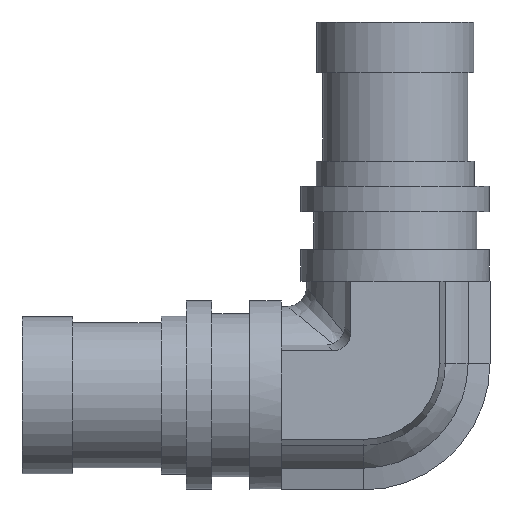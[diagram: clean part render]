
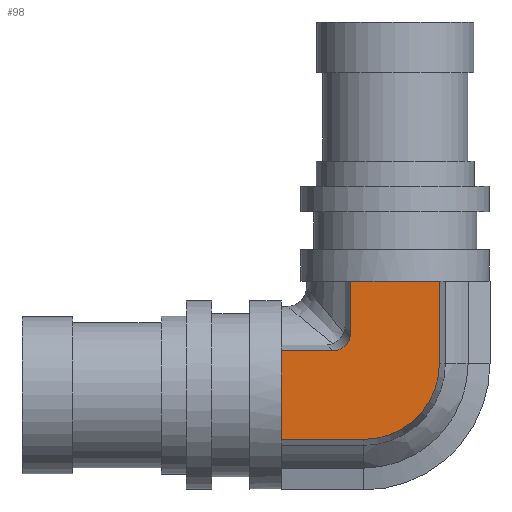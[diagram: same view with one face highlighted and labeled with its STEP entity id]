
A CAD part, front view. The second image highlights one B-rep face of the part: STEP entity #98.
In plain terms, the highlighted planar face has unit normal (0, -1, 0).
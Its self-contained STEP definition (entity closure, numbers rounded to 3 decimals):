
#98 = ADVANCED_FACE( '', ( #199 ), #200, .T. );
#199 = FACE_OUTER_BOUND( '', #605, .T. );
#200 = PLANE( '', #606 );
#605 = EDGE_LOOP( '', ( #967, #968, #969, #970, #971, #972, #973, #974 ) );
#606 = AXIS2_PLACEMENT_3D( '', #975, #976, #977 );
#967 = ORIENTED_EDGE( '', *, *, #1302, .F. );
#968 = ORIENTED_EDGE( '', *, *, #1356, .T. );
#969 = ORIENTED_EDGE( '', *, *, #1357, .F. );
#970 = ORIENTED_EDGE( '', *, *, #1358, .F. );
#971 = ORIENTED_EDGE( '', *, *, #1324, .T. );
#972 = ORIENTED_EDGE( '', *, *, #1359, .T. );
#973 = ORIENTED_EDGE( '', *, *, #1319, .T. );
#974 = ORIENTED_EDGE( '', *, *, #1298, .F. );
#975 = CARTESIAN_POINT( '', ( -3.5, -7.5, 2.5 ) );
#976 = DIRECTION( '', ( 0., -1., 0. ) );
#977 = DIRECTION( '', ( 0., 0., -1. ) );
#1298 = EDGE_CURVE( '', #1449, #1445, #1451, .T. );
#1302 = EDGE_CURVE( '', #1457, #1449, #1458, .T. );
#1319 = EDGE_CURVE( '', #1488, #1445, #1489, .T. );
#1324 = EDGE_CURVE( '', #1496, #1494, #1497, .F. );
#1356 = EDGE_CURVE( '', #1457, #1546, #1547, .T. );
#1357 = EDGE_CURVE( '', #1548, #1546, #1549, .T. );
#1358 = EDGE_CURVE( '', #1496, #1548, #1550, .T. );
#1359 = EDGE_CURVE( '', #1494, #1488, #1551, .T. );
#1445 = VERTEX_POINT( '', #1682 );
#1449 = VERTEX_POINT( '', #1688 );
#1451 = LINE( '', #1691, #1692 );
#1457 = VERTEX_POINT( '', #1698 );
#1458 = CIRCLE( '', #1699, 6. );
#1488 = VERTEX_POINT( '', #1760 );
#1489 = LINE( '', #1761, #1762 );
#1494 = VERTEX_POINT( '', #1782 );
#1496 = VERTEX_POINT( '', #1785 );
#1497 = ELLIPSE( '', #1786, 1.604, 1.5 );
#1546 = VERTEX_POINT( '', #1858 );
#1547 = LINE( '', #1859, #1860 );
#1548 = VERTEX_POINT( '', #1861 );
#1549 = LINE( '', #1862, #1863 );
#1550 = LINE( '', #1864, #1865 );
#1551 = LINE( '', #1866, #1867 );
#1682 = CARTESIAN_POINT( '', ( -9., -7.5, -3.5 ) );
#1688 = CARTESIAN_POINT( '', ( -2.5, -7.5, -3.5 ) );
#1691 = CARTESIAN_POINT( '', ( -2.5, -7.5, -3.5 ) );
#1692 = VECTOR( '', #2025, 1000. );
#1698 = CARTESIAN_POINT( '', ( 3.5, -7.5, 2.5 ) );
#1699 = AXIS2_PLACEMENT_3D( '', #2035, #2036, #2037 );
#1760 = CARTESIAN_POINT( '', ( -9., -7.5, 3.5 ) );
#1761 = CARTESIAN_POINT( '', ( -9., -7.5, 3.5 ) );
#1762 = VECTOR( '', #2058, 1000. );
#1782 = CARTESIAN_POINT( '', ( -4.949, -7.5, 3.5 ) );
#1785 = CARTESIAN_POINT( '', ( -3.5, -7.5, 4.949 ) );
#1786 = AXIS2_PLACEMENT_3D( '', #2064, #2065, #2066 );
#1858 = CARTESIAN_POINT( '', ( 3.5, -7.5, 9. ) );
#1859 = CARTESIAN_POINT( '', ( 3.5, -7.5, 2.5 ) );
#1860 = VECTOR( '', #2117, 1000. );
#1861 = CARTESIAN_POINT( '', ( -3.5, -7.5, 9. ) );
#1862 = CARTESIAN_POINT( '', ( -3.5, -7.5, 9. ) );
#1863 = VECTOR( '', #2118, 1000. );
#1864 = CARTESIAN_POINT( '', ( -3.5, -7.5, 2.5 ) );
#1865 = VECTOR( '', #2119, 1000. );
#1866 = CARTESIAN_POINT( '', ( -2.5, -7.5, 3.5 ) );
#1867 = VECTOR( '', #2120, 1000. );
#2025 = DIRECTION( '', ( -1., 0., 0. ) );
#2035 = CARTESIAN_POINT( '', ( -2.5, -7.5, 2.5 ) );
#2036 = DIRECTION( '', ( 0., 1., 0. ) );
#2037 = DIRECTION( '', ( 0., 0., 1. ) );
#2058 = DIRECTION( '', ( 0., 0., -1. ) );
#2064 = CARTESIAN_POINT( '', ( -5.053, -7.5, 5.053 ) );
#2065 = DIRECTION( '', ( 0., -1., 0. ) );
#2066 = DIRECTION( '', ( 0.707, 0., -0.707 ) );
#2117 = DIRECTION( '', ( 0., 0., 1. ) );
#2118 = DIRECTION( '', ( 1., 0., 0. ) );
#2119 = DIRECTION( '', ( 0., 0., 1. ) );
#2120 = DIRECTION( '', ( -1., 0., 0. ) );
